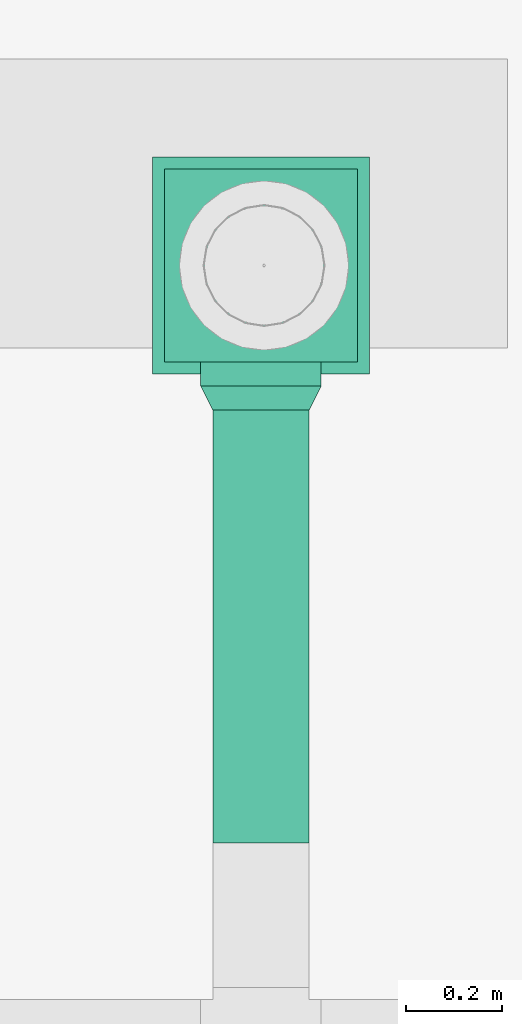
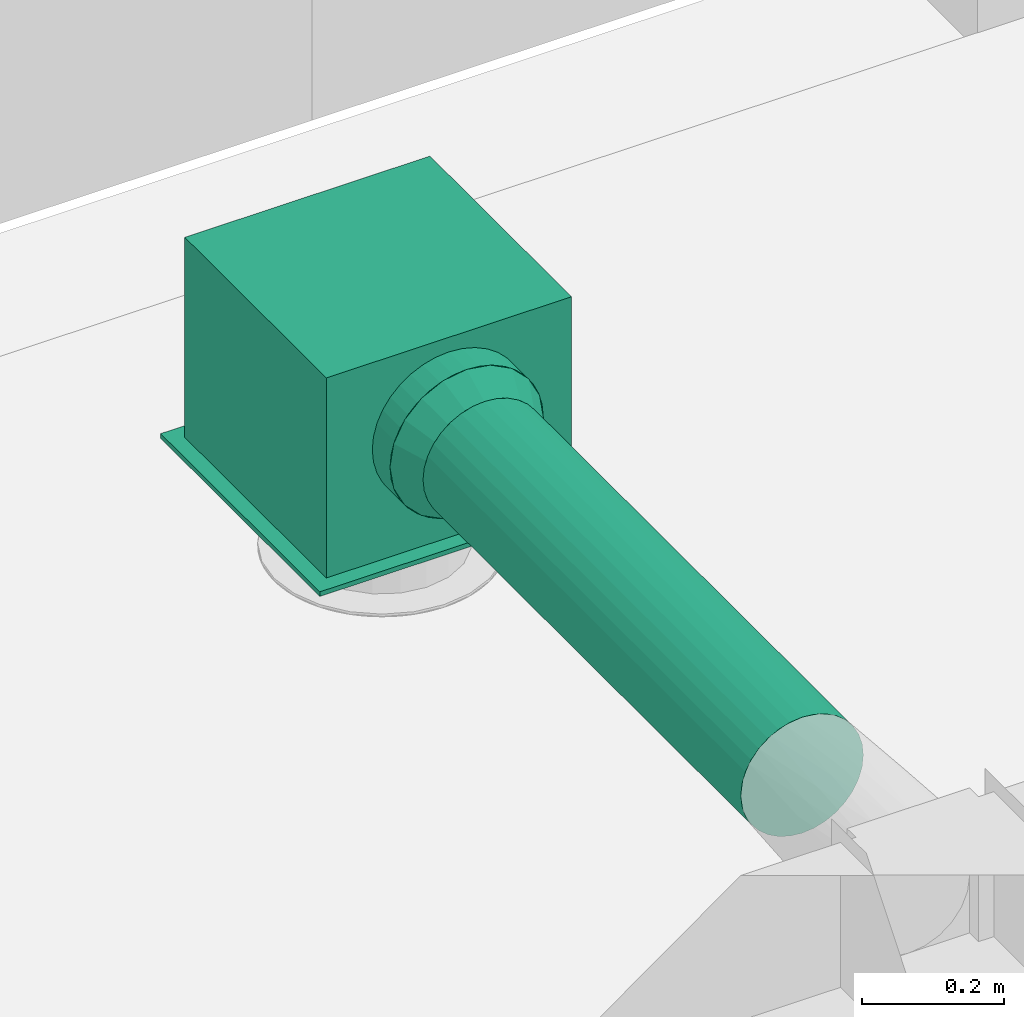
# One storey, part 275 of 302: 1 flow fitting, 1 flow segment, 1 flow terminal.
"""IFC2X3 building model written with IfcOpenShell, lengths in metres."""

from ifc_helpers import new_model, entity, si_unit, converted_unit, derived_unit, direction, frame, frame_2d, origin, origin_2d_with_axis, place, context, subcontext, project, spatial, rectangle, circle, extrude, faceted_brep, source, transform, mapped, material, material_list, type_object, type_shapes, element, save


model = new_model("IFC2X3")

# Units and contexts
model_context = context("Model", 3, precision=1e-05, world=origin(), true_north=direction((6.12303176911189e-17, 1.0)))
body_context = subcontext(model_context, "Body", "Model", "MODEL_VIEW")
ifc_project = project(units=[si_unit("LENGTHUNIT", "METRE"), si_unit("AREAUNIT", "SQUARE_METRE"), si_unit("VOLUMEUNIT", "CUBIC_METRE"), converted_unit("PLANEANGLEUNIT", "DEGREE", entity("IfcRatioMeasure", 0.0174532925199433), si_unit("PLANEANGLEUNIT", "RADIAN"), dimensions=[0, 0, 0, 0, 0, 0, 0]), si_unit("MASSUNIT", "GRAM", prefix="KILO"), derived_unit("MASSDENSITYUNIT", [(si_unit("MASSUNIT", "GRAM", prefix="KILO"), 1), (si_unit("LENGTHUNIT", "METRE"), -3)]), derived_unit("MOMENTOFINERTIAUNIT", [(si_unit("LENGTHUNIT", "METRE"), 4)]), si_unit("TIMEUNIT", "SECOND"), si_unit("FREQUENCYUNIT", "HERTZ"), si_unit("THERMODYNAMICTEMPERATUREUNIT", "DEGREE_CELSIUS"), derived_unit("THERMALTRANSMITTANCEUNIT", [(si_unit("MASSUNIT", "GRAM", prefix="KILO"), 1), (si_unit("THERMODYNAMICTEMPERATUREUNIT", "KELVIN"), -1), (si_unit("TIMEUNIT", "SECOND"), -3)]), derived_unit("VOLUMETRICFLOWRATEUNIT", [(si_unit("LENGTHUNIT", "METRE"), 3), (si_unit("TIMEUNIT", "SECOND"), -1)]), si_unit("ELECTRICCURRENTUNIT", "AMPERE"), si_unit("ELECTRICVOLTAGEUNIT", "VOLT"), si_unit("POWERUNIT", "WATT"), si_unit("FORCEUNIT", "NEWTON", prefix="KILO"), si_unit("ILLUMINANCEUNIT", "LUX"), si_unit("LUMINOUSFLUXUNIT", "LUMEN"), si_unit("LUMINOUSINTENSITYUNIT", "CANDELA"), derived_unit("USERDEFINED", [(si_unit("MASSUNIT", "GRAM", prefix="KILO"), -1), (si_unit("LENGTHUNIT", "METRE"), -2), (si_unit("TIMEUNIT", "SECOND"), 3), (si_unit("LUMINOUSFLUXUNIT", "LUMEN"), 1)]), derived_unit("LINEARVELOCITYUNIT", [(si_unit("LENGTHUNIT", "METRE"), 1), (si_unit("TIMEUNIT", "SECOND"), -1)]), si_unit("PRESSUREUNIT", "PASCAL"), derived_unit("USERDEFINED", [(si_unit("LENGTHUNIT", "METRE"), -2), (si_unit("MASSUNIT", "GRAM", prefix="KILO"), 1), (si_unit("TIMEUNIT", "SECOND"), -2)]), derived_unit("LINEARFORCEUNIT", [(si_unit("MASSUNIT", "GRAM", prefix="KILO"), 1), (si_unit("LENGTHUNIT", "METRE"), 1), (si_unit("TIMEUNIT", "SECOND"), -2), (si_unit("LENGTHUNIT", "METRE"), -1)]), derived_unit("PLANARFORCEUNIT", [(si_unit("MASSUNIT", "GRAM", prefix="KILO"), 1), (si_unit("LENGTHUNIT", "METRE"), 1), (si_unit("TIMEUNIT", "SECOND"), -2), (si_unit("LENGTHUNIT", "METRE"), -2)])], contexts=[model_context])

# Site, building, storey
site_placement = place(None, origin())
site = spatial("IfcSite", under=ifc_project, at=site_placement, Name="Default", CompositionType="ELEMENT")
building_placement = place(site_placement, origin())
building = spatial("IfcBuilding", under=site, at=building_placement, CompositionType="ELEMENT")
storey_placement = place(building_placement, frame((0.0, 0.0, -1.3)))
storey = spatial("IfcBuildingStorey", under=building, at=storey_placement, Name="00_EG", CompositionType="ELEMENT", Elevation=-1.3)

# Flow segment
duct_segment_type = type_object("IfcDuctSegmentType", Name="Rund:STR_Segment_RND_GS_EA", PredefinedType="NOTDEFINED")
flow_segment_placement = place(storey_placement, origin())
element("IfcFlowSegment", 1, at=flow_segment_placement, inside=storey, type_object=duct_segment_type, Name="Rund:STR_Segment_RND_GS_EA", ObjectType="Rund:STR_Segment_RND_GS_EA", context=body_context, shape_type="SweptSolid", body=[
    extrude(circle(Radius=0.1, at=origin_2d_with_axis()), frame((-241.004454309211, 39.3332258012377, 4.91), z_axis=(0.0, 1.0, 0.0), x_axis=(1.0, 0.0, 0.0)), (0.0, 0.0, 1.0), 0.897893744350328),
])

# Flow terminal
ifc_material = material(Name="<Unnamed>")
ifc_material_list = material_list([ifc_material, ifc_material, ifc_material])
air_terminal_type = type_object("IfcAirTerminalType", Name="Drallauslass Zuluft seitlich:600 quadratisch", PredefinedType="NOTDEFINED", material=ifc_material_list)
shared_shape_1 = source(origin(), body_context, "Body", "SweptSolid", [
    extrude(rectangle(XDim=0.449999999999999, YDim=0.450000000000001, at=origin_2d_with_axis()), frame((0.0, 0.0, 2.692), z_axis=(0.0, 0.0, 1.0), x_axis=(-1.0, 0.0, 0.0)), (0.0, 0.0, 1.0), 0.00800000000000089),
    extrude(circle(Radius=0.125, at=frame_2d((1.22275294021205e-18, 0.0), x_axis=(1.0, 0.0))), frame((-0.25, 0.0, 2.89500000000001), z_axis=(1.0, 0.0, 0.0), x_axis=(0.0, 1.0, 0.0)), (0.0, 0.0, 1.0), 0.0499999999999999),
    extrude(rectangle(XDim=0.399999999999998, YDim=0.4, at=origin_2d_with_axis()), frame((0.0, 0.0, 2.7), z_axis=(0.0, 0.0, 1.0), x_axis=(-1.0, 0.0, 0.0)), (0.0, 0.0, 1.0), 0.345000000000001),
])
type_shapes(air_terminal_type, [shared_shape_1])
flow_terminal_placement = place(storey_placement, frame((-241.004454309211, 40.531119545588, 2.01499999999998), z_axis=(0.0, 0.0, 1.0), x_axis=(0.0, 1.0, 0.0)))
element("IfcFlowTerminal", 2, at=flow_terminal_placement, inside=storey, type_object=air_terminal_type, material=ifc_material, Name="Drallauslass Zuluft seitlich:600 quadratisch", ObjectType="Drallauslass Zuluft seitlich:600 quadratisch", context=body_context, shape_type="MappedRepresentation", body=[
    mapped(shared_shape_1, transform((0.0, 0.0, 0.0), scale=1.0)),
])

# Flow fitting
duct_fitting_type = type_object("IfcDuctFittingType", Name="STR_RND_Transition:STR_Transition_RND_GS_EA", PredefinedType="NOTDEFINED", material=ifc_material)
shared_shape_2 = source(origin(), body_context, "Body", "Brep", [
    faceted_brep([(0.0500000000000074, -0.073473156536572, -0.1011271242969), (0.0500000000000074, -0.0386271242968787, -0.118882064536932), (0.0500000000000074, 0.0, -0.12500000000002), (0.0500000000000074, 0.0386271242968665, -0.11888206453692), (0.0500000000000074, 0.073473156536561, -0.101127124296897), (0.0500000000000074, 0.101127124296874, -0.0734731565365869), (0.0500000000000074, 0.1188820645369, -0.038627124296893), (0.0500000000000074, 0.124999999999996, 0.0), (0.0500000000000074, 0.118882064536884, 0.0386271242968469), (0.0500000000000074, 0.101127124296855, 0.073473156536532), (0.0500000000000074, 0.0734731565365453, 0.101127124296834), (0.0500000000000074, 0.0386271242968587, 0.118882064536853), (0.0500000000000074, 0.0, 0.12499999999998), (0.0500000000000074, -0.0386271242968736, 0.118882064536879), (0.0500000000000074, -0.0734731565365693, 0.101127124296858), (0.0500000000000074, -0.101127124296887, 0.0734731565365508), (0.0500000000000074, -0.118882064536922, 0.0386271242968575), (0.0500000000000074, -0.125000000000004, 0.0), (0.0500000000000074, -0.118882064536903, -0.0386271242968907), (0.0500000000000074, -0.101127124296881, -0.0734731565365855), (0.0, 0.0309016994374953, -0.0951056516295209), (0.0, 0.0, -0.100000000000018), (0.0, -0.0309016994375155, -0.0951056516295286), (0.0, -0.0587785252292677, -0.0809016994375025), (0.0, -0.0809016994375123, -0.0587785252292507), (0.0, -0.0951056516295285, -0.0309016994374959), (0.0, -0.100000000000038, 0.0), (0.0, -0.0951056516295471, 0.0309016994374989), (0.0, -0.0809016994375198, 0.0587785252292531), (0.0, -0.058778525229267, 0.0809016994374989), (0.0, -0.0309016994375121, 0.0951056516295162), (0.0, 0.0, 0.0999999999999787), (0.0, 0.0309016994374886, 0.0951056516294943), (0.0, 0.0587785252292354, 0.0809016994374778), (0.0, 0.0809016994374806, 0.0587785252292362), (0.0, 0.0951056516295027, 0.0309016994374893), (0.0, 0.0999999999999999, 0.0), (0.0, 0.0951056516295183, -0.0309016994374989), (0.0, 0.0809016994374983, -0.0587785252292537), (0.0, 0.0587785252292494, -0.0809016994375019)], [[[0, 1, 2, 3, 4, 5, 6, 7, 8, 9, 10, 11, 12, 13, 14, 15, 16, 17, 18, 19]], [[20, 21, 22, 23, 24, 25, 26, 27, 28, 29, 30, 31, 32, 33, 34, 35, 36, 37, 38, 39]], [[35, 34, 9, 8]], [[36, 35, 8, 7]], [[34, 33, 10, 9]], [[10, 33, 32, 11]], [[11, 32, 31, 12]], [[30, 29, 14, 13]], [[31, 30, 13, 12]], [[29, 28, 15, 14]], [[15, 28, 27, 16]], [[16, 27, 26, 17]], [[25, 24, 19, 18]], [[26, 25, 18, 17]], [[24, 23, 0, 19]], [[0, 23, 22, 1]], [[1, 22, 21, 2]], [[20, 39, 4, 3]], [[21, 20, 3, 2]], [[39, 38, 5, 4]], [[5, 38, 37, 6]], [[6, 37, 36, 7]]]),
])
type_shapes(duct_fitting_type, [shared_shape_2])
flow_fitting_placement = place(storey_placement, frame((-241.004454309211, 40.231119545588, 4.90999999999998), z_axis=(0.0, 0.0, 1.0), x_axis=(0.0, 1.0, 0.0)))
element("IfcFlowFitting", 3, at=flow_fitting_placement, inside=storey, type_object=duct_fitting_type, material=ifc_material, Name="STR_RND_Transition:STR_Transition_RND_GS_EA", ObjectType="STR_RND_Transition:STR_Transition_RND_GS_EA", context=body_context, shape_type="MappedRepresentation", body=[
    mapped(shared_shape_2, transform((0.0, 0.0, 0.0), scale=1.0)),
])

save(model, "model.ifc")
